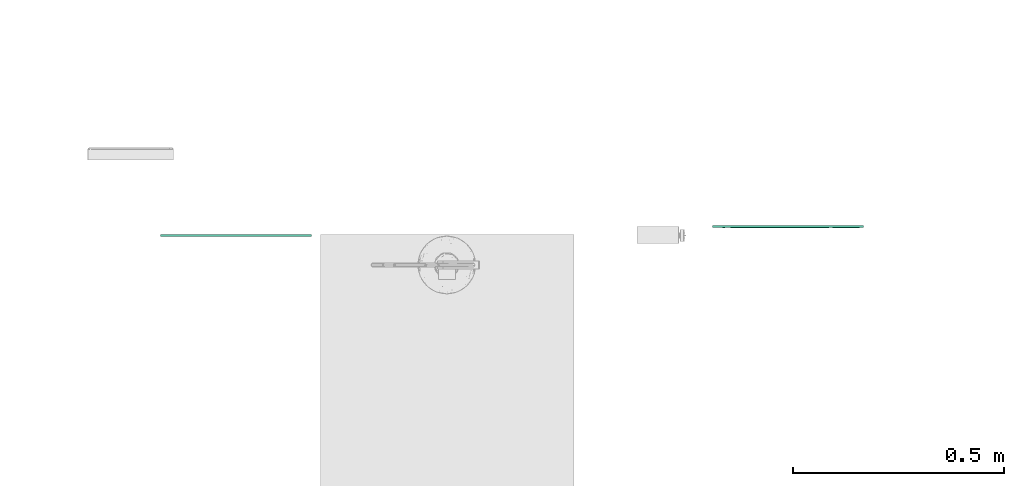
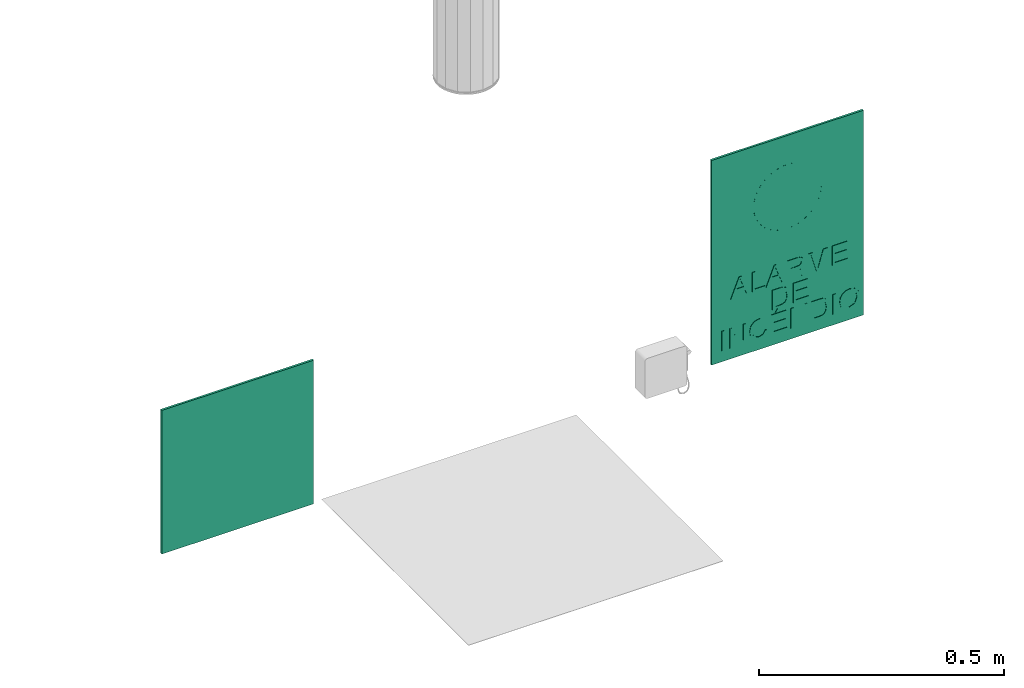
# One storey, part 8 of 9: 2 flow terminals.
"""IFC2X3 building model written with IfcOpenShell, lengths in metres."""

from ifc_helpers import new_model, entity, si_unit, converted_unit, derived_unit, direction, frame, frame_2d, origin, place, context, subcontext, project, spatial, polyline, circle_curve, parameter, trimmed, segment, composite_curve, rectangle, circle, hollow_circle, outline, extrude, source, transform, mapped, material, material_list, type_object, type_shapes, element, save


model = new_model("IFC2X3")

# Units and contexts
model_context = context("Model", 3, precision=1e-05, world=origin(), true_north=direction((6.12303176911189e-17, 1.0)))
body_context = subcontext(model_context, "Body", "Model", "MODEL_VIEW")
ifc_project = project(units=[si_unit("LENGTHUNIT", "METRE"), si_unit("AREAUNIT", "SQUARE_METRE"), si_unit("VOLUMEUNIT", "CUBIC_METRE"), converted_unit("PLANEANGLEUNIT", "DEGREE", entity("IfcRatioMeasure", 0.0174532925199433), si_unit("PLANEANGLEUNIT", "RADIAN"), dimensions=[0, 0, 0, 0, 0, 0, 0]), si_unit("MASSUNIT", "GRAM", prefix="KILO"), derived_unit("MASSDENSITYUNIT", [(si_unit("MASSUNIT", "GRAM", prefix="KILO"), 1), (si_unit("LENGTHUNIT", "METRE"), -3)]), derived_unit("MOMENTOFINERTIAUNIT", [(si_unit("LENGTHUNIT", "METRE"), 4)]), si_unit("TIMEUNIT", "SECOND"), si_unit("FREQUENCYUNIT", "HERTZ"), si_unit("THERMODYNAMICTEMPERATUREUNIT", "DEGREE_CELSIUS"), derived_unit("THERMALTRANSMITTANCEUNIT", [(si_unit("MASSUNIT", "GRAM", prefix="KILO"), 1), (si_unit("THERMODYNAMICTEMPERATUREUNIT", "KELVIN"), -1), (si_unit("TIMEUNIT", "SECOND"), -3)]), derived_unit("VOLUMETRICFLOWRATEUNIT", [(si_unit("LENGTHUNIT", "METRE"), 3), (si_unit("TIMEUNIT", "SECOND"), -1)]), si_unit("ELECTRICCURRENTUNIT", "AMPERE"), si_unit("ELECTRICVOLTAGEUNIT", "VOLT"), si_unit("POWERUNIT", "WATT"), si_unit("FORCEUNIT", "NEWTON", prefix="KILO"), si_unit("ILLUMINANCEUNIT", "LUX"), si_unit("LUMINOUSFLUXUNIT", "LUMEN"), si_unit("LUMINOUSINTENSITYUNIT", "CANDELA"), derived_unit("USERDEFINED", [(si_unit("MASSUNIT", "GRAM", prefix="KILO"), -1), (si_unit("LENGTHUNIT", "METRE"), -2), (si_unit("TIMEUNIT", "SECOND"), 3), (si_unit("LUMINOUSFLUXUNIT", "LUMEN"), 1)]), derived_unit("LINEARVELOCITYUNIT", [(si_unit("LENGTHUNIT", "METRE"), 1), (si_unit("TIMEUNIT", "SECOND"), -1)]), si_unit("PRESSUREUNIT", "PASCAL"), derived_unit("USERDEFINED", [(si_unit("LENGTHUNIT", "METRE"), -2), (si_unit("MASSUNIT", "GRAM", prefix="KILO"), 1), (si_unit("TIMEUNIT", "SECOND"), -2)]), derived_unit("LINEARFORCEUNIT", [(si_unit("MASSUNIT", "GRAM", prefix="KILO"), 1), (si_unit("LENGTHUNIT", "METRE"), 1), (si_unit("TIMEUNIT", "SECOND"), -2), (si_unit("LENGTHUNIT", "METRE"), -1)]), derived_unit("PLANARFORCEUNIT", [(si_unit("MASSUNIT", "GRAM", prefix="KILO"), 1), (si_unit("LENGTHUNIT", "METRE"), 1), (si_unit("TIMEUNIT", "SECOND"), -2), (si_unit("LENGTHUNIT", "METRE"), -2)])], contexts=[model_context])

# Site, building, storey
site_placement = place(None, origin())
site = spatial("IfcSite", under=ifc_project, at=site_placement, Name="Default", CompositionType="ELEMENT")
building_placement = place(site_placement, origin())
building = spatial("IfcBuilding", under=site, at=building_placement, Name="C.L. MONSENHOR ANTÔNIO SAMPAIO", CompositionType="ELEMENT")
storey_placement = place(building_placement, origin())
storey = spatial("IfcBuildingStorey", under=building, at=storey_placement, Name="TÉRREO", CompositionType="ELEMENT", Elevation=0.0)

# Flow terminals
ifc_material_1 = material(Name="VERMELHO")
ifc_material_2 = material(Name="Branco")
ifc_material_list_1 = material_list([ifc_material_1, ifc_material_2])
distribution_element_type_1 = type_object("IfcDistributionElementType", Name="E2:10 metros", material=ifc_material_1)
shared_shape_1 = source(origin(), body_context, "Body", "SweptSolid", [
    extrude(outline(polyline([(-0.115, -0.115), (0.115, -0.115), (0.115, 0.115), (-0.115, 0.115), (-0.115, -0.115)]), holes=[polyline([(-0.0969999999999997, 0.097), (0.0969999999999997, 0.097), (0.0969999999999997, -0.097), (-0.0969999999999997, -0.097), (-0.0969999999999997, 0.097)])]), frame((0.0, -0.005, 0.353240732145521), z_axis=(0.0, 1.0, 0.0), x_axis=(0.0, 0.0, -1.0)), (0.0, 0.0, 1.0), 0.005),
    extrude(hollow_circle(Radius=0.08, WallThickness=0.05, at=frame_2d((3.96523122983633e-19, -4.06075173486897e-16), x_axis=(1.0, 0.0))), frame((0.0, -0.005, 0.357999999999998), z_axis=(0.0, 1.0, 0.0), x_axis=(1.0, 0.0, 0.0)), (0.0, 0.0, 1.0), 0.005),
    extrude(outline(polyline([(-0.0232588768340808, -0.0146945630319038), (0.0297491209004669, -0.0146945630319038), (0.0316918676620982, -0.00982759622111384), (-0.00674552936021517, 0.0266746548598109), (-0.00915613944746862, 0.0206355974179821), (0.0030424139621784, 0.00969678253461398), (-0.00447459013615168, -0.00913480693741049), (-0.0208482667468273, -0.00865550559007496), (-0.0232588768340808, -0.0146945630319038)]), holes=[polyline([(0.00207844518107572, -0.009317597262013), (0.00792450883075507, 0.00532795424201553), (0.0175212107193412, -0.00327813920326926), (0.0250051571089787, -0.00997968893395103), (0.0160884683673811, -0.00972047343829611), (0.00207844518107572, -0.009317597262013)])]), frame((-0.111952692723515, -0.006, 0.16473474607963), z_axis=(0.0, 1.0, 0.0), x_axis=(0.370725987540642, 0.0, 0.92874229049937)), (0.0, 0.0, 1.0), 0.006),
    extrude(outline(polyline([(-0.0184615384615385, -0.0123076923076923), (0.0307692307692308, -0.0123076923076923), (0.0307692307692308, -0.00615384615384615), (-0.0123076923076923, -0.00615384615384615), (-0.0123076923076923, 0.0184615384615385), (-0.0184615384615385, 0.0184615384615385), (-0.0184615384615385, -0.0123076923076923)])), frame((-0.0707973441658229, -0.006, 0.167042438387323), z_axis=(0.0, 1.0, 0.0), x_axis=(0.0, 0.0, 1.0)), (0.0, 0.0, 1.0), 0.006),
    extrude(outline(polyline([(-0.0232588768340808, -0.0146945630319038), (0.0297491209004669, -0.0146945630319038), (0.0316918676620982, -0.00982759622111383), (-0.00674552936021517, 0.0266746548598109), (-0.00915613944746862, 0.0206355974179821), (0.0030424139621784, 0.00969678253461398), (-0.00447459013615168, -0.00913480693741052), (-0.0208482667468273, -0.00865550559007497), (-0.0232588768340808, -0.0146945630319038)]), holes=[polyline([(0.00207844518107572, -0.00931759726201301), (0.00792450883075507, 0.00532795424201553), (0.0175212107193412, -0.00327813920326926), (0.0250051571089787, -0.00997968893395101), (0.0160884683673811, -0.00972047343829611), (0.00207844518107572, -0.00931759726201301)])]), frame((-0.0288757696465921, -0.006, 0.16473474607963), z_axis=(0.0, 1.0, 0.0), x_axis=(0.370725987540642, 0.0, 0.92874229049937)), (0.0, 0.0, 1.0), 0.006),
    extrude(outline(polyline([(-0.0220657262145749, -0.0231072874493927), (0.0271650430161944, -0.0231072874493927), (0.0271650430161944, -0.0018933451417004), (0.0258369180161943, 0.0079564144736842), (0.0211373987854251, 0.0133410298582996), (0.0136914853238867, 0.0153542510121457), (0.00482129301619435, 0.0120189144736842), (0.000241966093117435, 0.0017124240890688), (-0.00239024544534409, 0.005210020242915), (-0.00872438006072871, 0.0101980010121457), (-0.0220657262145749, 0.0184071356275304), (-0.0220657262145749, 0.0112556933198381), (-0.0118613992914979, 0.00484944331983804), (-0.00510659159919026, 0.000222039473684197), (-0.00191548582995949, -0.00302916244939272), (-0.000743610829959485, -0.00595584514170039), (-0.000527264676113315, -0.00952555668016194), (-0.000527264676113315, -0.0169534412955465), (-0.0220657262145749, -0.0169534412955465), (-0.0220657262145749, -0.0231072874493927)]), holes=[polyline([(0.00562658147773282, -0.0169534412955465), (0.00562658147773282, -0.00317940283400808), (0.00649797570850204, 0.00384583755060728), (0.0092864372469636, 0.00783622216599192), (0.0134631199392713, 0.00920040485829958), (0.0188837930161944, 0.00659824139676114), (0.0210111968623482, -0.0016289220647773), (0.0210111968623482, -0.0169534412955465), (0.00562658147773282, -0.0169534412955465)])]), frame((0.0230791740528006, -0.006, 0.170646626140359), z_axis=(0.0, 1.0, 0.0), x_axis=(0.0, 0.0, 1.0)), (0.0, 0.0, 1.0), 0.006),
    extrude(outline(polyline([(-0.0213349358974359, -0.0227035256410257), (0.0278958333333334, -0.0227035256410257), (0.0278958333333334, -0.0121145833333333), (-0.00680368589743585, -0.00204246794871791), (-0.014051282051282, -1.12179487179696e-05), (-0.00620272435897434, 0.00218830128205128), (0.0278958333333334, 0.0120921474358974), (0.0278958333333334, 0.0226810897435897), (-0.0213349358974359, 0.0226810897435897), (-0.0213349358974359, 0.0165272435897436), (0.0217419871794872, 0.0165272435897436), (-0.0213349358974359, 0.00415945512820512), (-0.0213349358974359, -0.00418189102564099), (0.0217419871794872, -0.0165496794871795), (-0.0213349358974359, -0.0165496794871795), (-0.0213349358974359, -0.0227035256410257)])), frame((0.0719061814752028, -0.006, 0.16991583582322), z_axis=(0.0, 1.0, 0.0), x_axis=(0.0, 0.0, 1.0)), (0.0, 0.0, 1.0), 0.006),
    extrude(outline(polyline([(-0.0248717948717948, -0.0196153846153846), (0.0243589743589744, -0.0196153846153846), (0.0243589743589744, 0.0157692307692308), (0.0182051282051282, 0.0157692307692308), (0.0182051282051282, -0.0134615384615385), (0.0035897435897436, -0.0134615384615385), (0.0035897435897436, 0.0142307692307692), (-0.00256410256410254, 0.0142307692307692), (-0.00256410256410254, -0.0134615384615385), (-0.0187179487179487, -0.0134615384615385), (-0.0187179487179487, 0.0165384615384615), (-0.0248717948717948, 0.0165384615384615), (-0.0248717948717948, -0.0196153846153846)])), frame((0.124971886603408, -0.006, 0.173452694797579), z_axis=(0.0, 1.0, 0.0), x_axis=(0.0, 0.0, 1.0)), (0.0, 0.0, 1.0), 0.006),
    extrude(outline(polyline([(-0.0233603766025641, -0.0255023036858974), (0.0258703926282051, -0.0255023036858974), (0.0258703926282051, -0.00851913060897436), (0.0251612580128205, 0.000266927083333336), (0.0216396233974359, 0.00750250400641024), (0.0132261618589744, 0.0133318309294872), (0.00151943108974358, 0.0152669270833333), (-0.00841446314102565, 0.0139568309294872), (-0.0155839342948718, 0.0105914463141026), (-0.020049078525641, 0.00609625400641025), (-0.022519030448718, 0.000212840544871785), (-0.0233603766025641, -0.00770182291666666), (-0.0233603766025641, -0.0255023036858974)]), holes=[polyline([(-0.017206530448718, -0.0193484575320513), (-0.017206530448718, -0.00845903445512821), (-0.0163171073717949, -0.000538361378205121), (-0.0138050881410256, 0.00402894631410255), (-0.00769330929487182, 0.00777293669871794), (0.00161558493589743, 0.00911308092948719), (0.0132742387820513, 0.00648687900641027), (0.018730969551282, 9.86578525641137e-05), (0.019716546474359, -0.00862730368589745), (0.019716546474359, -0.0193484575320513), (-0.017206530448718, -0.0193484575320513)])]), frame((-0.0106796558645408, -0.006, 0.111172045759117), z_axis=(0.0, 1.0, 0.0), x_axis=(0.0, 0.0, 1.0)), (0.0, 0.0, 1.0), 0.006),
    extrude(outline(polyline([(-0.0248717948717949, -0.0196153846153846), (0.0243589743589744, -0.0196153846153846), (0.0243589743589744, 0.0157692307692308), (0.0182051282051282, 0.0157692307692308), (0.0182051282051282, -0.0134615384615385), (0.00358974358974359, -0.0134615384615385), (0.00358974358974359, 0.0142307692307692), (-0.00256410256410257, 0.0142307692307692), (-0.00256410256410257, -0.0134615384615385), (-0.0187179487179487, -0.0134615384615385), (-0.0187179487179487, 0.0165384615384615), (-0.0248717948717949, 0.0165384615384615), (-0.0248717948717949, -0.0196153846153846)])), frame((0.0326641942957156, -0.006, 0.112683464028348), z_axis=(0.0, 1.0, 0.0), x_axis=(0.0, 0.0, 1.0)), (0.0, 0.0, 1.0), 0.006),
    extrude(rectangle(XDim=0.006, YDim=0.00615384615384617, at=frame_2d((0.0, -1.69135538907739e-17), x_axis=(1.0, 0.0))), frame((-0.151951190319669, -0.003, 0.0270424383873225), z_axis=(0.0, 0.0, 1.0), x_axis=(0.0, 1.0, 0.0)), (0.0, 0.0, 1.0), 0.0492307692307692),
    extrude(outline(polyline([(-0.0246165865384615, -0.0192307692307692), (0.0246141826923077, -0.0192307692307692), (0.0246141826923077, -0.0126442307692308), (-0.0143882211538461, 0.0130769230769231), (0.0246141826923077, 0.0130769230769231), (0.0246141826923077, 0.0192307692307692), (-0.0246165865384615, 0.0192307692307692), (-0.0246165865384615, 0.0126442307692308), (0.0143978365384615, -0.0130769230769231), (-0.0246165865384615, -0.0130769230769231), (-0.0246165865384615, -0.0192307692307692)])), frame((-0.117335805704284, -0.006, 0.0516590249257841), z_axis=(0.0, 1.0, 0.0), x_axis=(0.0, 0.0, 1.0)), (0.0, 0.0, 1.0), 0.006),
    extrude(outline(polyline([(0.0173971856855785, 0.00315678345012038), (0.0237522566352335, 0.00315678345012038), (0.0197857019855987, 0.0169950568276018), (0.00837577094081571, 0.0243492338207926), (-0.00483237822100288, 0.0244155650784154), (-0.014444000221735, 0.0172244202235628), (-0.0202261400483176, 0.00512371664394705), (-0.0207434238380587, -0.00855775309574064), (-0.0148834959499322, -0.0190239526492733), (-0.00417070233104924, -0.0248454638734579), (0.00872193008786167, -0.0242098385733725), (0.0181494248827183, -0.0154941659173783), (0.0125565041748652, -0.0125379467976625), (0.00577939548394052, -0.0186042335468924), (-0.00286717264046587, -0.0188264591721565), (-0.011532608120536, -0.0138741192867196), (-0.0150347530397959, -0.00567282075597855), (-0.0142701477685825, 0.00357577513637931), (-0.0098254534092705, 0.0133774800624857), (-0.00253642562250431, 0.018492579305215), (0.00624589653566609, 0.0185432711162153), (0.0146026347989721, 0.0132360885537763), (0.0173971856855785, 0.00315678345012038)])), frame((-0.0687786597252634, -0.006, 0.0519424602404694), z_axis=(0.0, 1.0, 0.0), x_axis=(0.968336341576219, 0.0, -0.249649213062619)), (0.0, 0.0, 1.0), 0.006),
    extrude(outline(polyline([(-0.0248717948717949, -0.0196153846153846), (0.0243589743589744, -0.0196153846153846), (0.0243589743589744, 0.0157692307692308), (0.0182051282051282, 0.0157692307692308), (0.0182051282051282, -0.0134615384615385), (0.0035897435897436, -0.0134615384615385), (0.0035897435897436, 0.0142307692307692), (-0.00256410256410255, 0.0142307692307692), (-0.00256410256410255, -0.0134615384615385), (-0.0187179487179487, -0.0134615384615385), (-0.0187179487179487, 0.0165384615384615), (-0.0248717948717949, 0.0165384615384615), (-0.0248717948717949, -0.0196153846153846)])), frame((-0.0184896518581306, -0.006, 0.0519142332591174), z_axis=(0.0, 1.0, 0.0), x_axis=(0.0, 0.0, 1.0)), (0.0, 0.0, 1.0), 0.006),
    extrude(outline(polyline([(-0.0246165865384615, -0.0192307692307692), (0.0246141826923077, -0.0192307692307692), (0.0246141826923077, -0.0126442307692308), (-0.0143882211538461, 0.0130769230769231), (0.0246141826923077, 0.0130769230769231), (0.0246141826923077, 0.0192307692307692), (-0.0246165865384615, 0.0192307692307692), (-0.0246165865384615, 0.0126442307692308), (0.0143978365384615, -0.0130769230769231), (-0.0246165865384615, -0.0130769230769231), (-0.0246165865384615, -0.0192307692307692)])), frame((0.0265103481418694, -0.006, 0.0516590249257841), z_axis=(0.0, 1.0, 0.0), x_axis=(0.0, 0.0, 1.0)), (0.0, 0.0, 1.0), 0.006),
    extrude(outline(polyline([(-0.0233603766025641, -0.0255023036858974), (0.0258703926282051, -0.0255023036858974), (0.0258703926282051, -0.00851913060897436), (0.0251612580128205, 0.000266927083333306), (0.0216396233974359, 0.00750250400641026), (0.0132261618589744, 0.0133318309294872), (0.0015194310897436, 0.0152669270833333), (-0.00841446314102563, 0.0139568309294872), (-0.0155839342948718, 0.0105914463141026), (-0.020049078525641, 0.00609625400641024), (-0.0225190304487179, 0.000212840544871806), (-0.0233603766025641, -0.00770182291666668), (-0.0233603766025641, -0.0255023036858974)]), holes=[polyline([(-0.0172065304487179, -0.0193484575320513), (-0.0172065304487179, -0.00845903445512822), (-0.0163171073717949, -0.000538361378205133), (-0.0138050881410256, 0.00402894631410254), (-0.00769330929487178, 0.00777293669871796), (0.00161558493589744, 0.00911308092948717), (0.0132742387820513, 0.00648687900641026), (0.0187309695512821, 9.8657852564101e-05), (0.019716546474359, -0.00862730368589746), (0.019716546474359, -0.0193484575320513), (-0.0172065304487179, -0.0193484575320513)])]), frame((0.0820126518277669, -0.006, 0.0504028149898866), z_axis=(0.0, 1.0, 0.0), x_axis=(0.0, 0.0, 1.0)), (0.0, 0.0, 1.0), 0.006),
    extrude(rectangle(XDim=0.006, YDim=0.00615384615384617, at=frame_2d((0.0, 1.69135538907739e-17), x_axis=(1.0, 0.0))), frame((0.109587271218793, -0.003, 0.0270424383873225), z_axis=(0.0, 0.0, 1.0), x_axis=(0.0, 1.0, 0.0)), (0.0, 0.0, 1.0), 0.0492307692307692),
    extrude(outline(polyline([(-0.00518332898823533, -0.0217127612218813), (0.00582601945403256, -0.0217127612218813), (0.0147036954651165, -0.0180732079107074), (0.0209490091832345, -0.011414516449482), (0.0240612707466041, -0.00235710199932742), (0.0226774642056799, 0.0102373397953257), (0.0149674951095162, 0.0198104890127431), (0.00236779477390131, 0.0246021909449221), (-0.011285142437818, 0.0236149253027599), (-0.0213755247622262, 0.0165055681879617), (-0.0261464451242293, 0.00517292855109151), (-0.0246813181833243, -0.0075674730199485), (-0.0168809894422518, -0.0171056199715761), (-0.00518332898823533, -0.0217127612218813)]), holes=[polyline([(-0.0043257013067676, -0.0156186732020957), (-0.0170104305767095, -0.00872958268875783), (-0.0200666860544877, 0.00422022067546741), (-0.0132660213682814, 0.0157939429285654), (0.00149828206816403, 0.018509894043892), (0.0112294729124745, 0.0149284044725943), (0.0169683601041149, 0.00788273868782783), (0.0179815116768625, -0.00140439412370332), (0.0116103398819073, -0.0128301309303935), (0.00497091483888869, -0.0157221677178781), (-0.0043257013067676, -0.0156186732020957)])]), frame((0.144906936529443, -0.006, 0.052898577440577), z_axis=(0.0, 1.0, 0.0), x_axis=(0.149021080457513, 0.0, 0.988834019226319)), (0.0, 0.0, 1.0), 0.006),
    extrude(outline(polyline([(-0.00219091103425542, 0.00148455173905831), (0.00486968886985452, 0.00148455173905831), (0.00788668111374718, 0.00684809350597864), (-0.00336418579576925, 0.00567481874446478), (-0.0063811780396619, 0.000311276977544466), (-0.00191854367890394, -0.0105834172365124), (0.00109844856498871, -0.00521987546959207), (-0.00219091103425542, 0.00148455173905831)])), frame((-0.0194237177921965, -0.006, 0.0828666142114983), z_axis=(0.0, 1.0, 0.0), x_axis=(-0.490261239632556, 0.0, -0.871575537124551)), (0.0, 0.0, 1.0), 0.006),
    extrude(outline(polyline([(-0.179, -0.255), (0.179000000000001, -0.255), (0.179000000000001, 0.255), (-0.179000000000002, 0.255), (-0.179, -0.255)]), holes=[polyline([(-0.115, 0.213240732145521), (0.115, 0.213240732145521), (0.115, -0.0167592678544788), (-0.115, -0.0167592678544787), (-0.115, 0.213240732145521)])]), frame((0.0, -0.005, 0.255), z_axis=(0.0, 1.0, 0.0), x_axis=(-1.0, 0.0, 0.0)), (0.0, 0.0, 1.0), 0.005),
    extrude(outline(polyline([(-0.097, -0.0969999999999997), (0.097, -0.0969999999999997), (0.097, 0.0969999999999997), (-0.097, 0.0969999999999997), (-0.097, -0.0969999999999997)]), holes=[composite_curve([segment(trimmed(circle_curve(frame_2d((0.0, -0.00475926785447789), x_axis=(1.0, 0.0)), 0.08), [parameter(180.0)], [parameter(360.0)], True, "PARAMETER"), False, "CONTINUOUS"), segment(trimmed(circle_curve(frame_2d((0.0, -0.00475926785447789), x_axis=(1.0, 0.0)), 0.08), [parameter(0.0)], [parameter(180.0)], True, "PARAMETER"), False, "CONTINUOUS")], self_intersect=False)]), frame((0.0, -0.005, 0.353240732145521), z_axis=(0.0, 1.0, 0.0), x_axis=(1.0, 0.0, 0.0)), (0.0, 0.0, 1.0), 0.005),
    extrude(circle(Radius=0.03, at=frame_2d((0.0, -1.35358391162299e-16), x_axis=(1.0, 0.0))), frame((0.0, -0.005, 0.357999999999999), z_axis=(0.0, 1.0, 0.0), x_axis=(1.0, 0.0, 0.0)), (0.0, 0.0, 1.0), 0.005),
])
type_shapes(distribution_element_type_1, [shared_shape_1])
flow_terminal_1_placement = place(building_placement, frame((6.57697552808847, -16.9030663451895, 0.0)))
element("IfcFlowTerminal", 1, at=flow_terminal_1_placement, inside=storey, type_object=distribution_element_type_1, material=ifc_material_list_1, Name="E2:10 metros", ObjectType="E2:10 metros", context=body_context, shape_type="MappedRepresentation", body=[
    mapped(shared_shape_1, transform((0.0, 0.0, 0.0), scale=1.0)),
])
ifc_material_list_2 = material_list([ifc_material_2, ifc_material_1])
distribution_element_type_2 = type_object("IfcDistributionElementType", Name="E5:10 metros", material=ifc_material_2)
shared_shape_2 = source(origin(), body_context, "Body", "SweptSolid", [
    extrude(outline(composite_curve([segment(polyline([(-0.254128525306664, -0.0465583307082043), (-0.0191285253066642, -0.0465583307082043)]), True, "CONTINUOUS"), segment(trimmed(circle_curve(frame_2d((-0.0664803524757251, 0.00975665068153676), x_axis=(0.0, 1.0)), 0.0735769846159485), [parameter(220.058428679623)], [parameter(257.560611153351)], True, "PARAMETER"), True, "CONTINUOUS"), segment(polyline([(0.00536937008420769, -0.00609232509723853), (0.0303693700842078, -0.006092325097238)]), True, "CONTINUOUS"), segment(polyline([(0.0303693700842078, -0.006092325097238), (0.0303693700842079, -0.0230808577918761)]), True, "CONTINUOUS"), segment(polyline([(0.0303693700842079, -0.0230808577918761), (0.0043083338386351, -0.0617179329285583)]), True, "CONTINUOUS"), segment(polyline([(0.0043083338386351, -0.0617179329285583), (-0.0104637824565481, -0.0643226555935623)]), True, "CONTINUOUS"), segment(polyline([(-0.0104637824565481, -0.0643226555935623), (-0.010463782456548, -0.0743226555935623)]), True, "CONTINUOUS"), segment(polyline([(-0.010463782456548, -0.0743226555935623), (0.0120002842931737, -0.0743226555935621)]), True, "CONTINUOUS"), segment(polyline([(0.0120002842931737, -0.0743226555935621), (0.0533610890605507, -0.0267424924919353)]), True, "CONTINUOUS"), segment(polyline([(0.0533610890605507, -0.0267424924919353), (0.0533610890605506, -0.00174249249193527)]), True, "CONTINUOUS"), segment(polyline([(0.0533610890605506, -0.00174249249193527), (0.0602467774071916, -0.00174249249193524)]), True, "CONTINUOUS"), segment(polyline([(0.0602467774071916, -0.00174249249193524), (0.0602467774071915, 0.0232575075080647)]), True, "CONTINUOUS"), segment(polyline([(0.0602467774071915, 0.0232575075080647), (0.0533610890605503, 0.0232575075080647)]), True, "CONTINUOUS"), segment(polyline([(0.0533610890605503, 0.0232575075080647), (0.0533610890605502, 0.0463624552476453)]), True, "CONTINUOUS"), segment(polyline([(0.0533610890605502, 0.0463624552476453), (0.0451773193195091, 0.0545462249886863)]), True, "CONTINUOUS"), segment(polyline([(0.0451773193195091, 0.0545462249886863), (0.0401773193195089, 0.0545462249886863)]), True, "CONTINUOUS"), segment(polyline([(0.0401773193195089, 0.0545462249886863), (0.0303693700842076, 0.0447382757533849)]), True, "CONTINUOUS"), segment(polyline([(0.0303693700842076, 0.0447382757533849), (0.0303693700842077, 0.0272220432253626)]), True, "CONTINUOUS"), segment(polyline([(0.0303693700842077, 0.0272220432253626), (0.00499364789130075, 0.0272220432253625)]), True, "CONTINUOUS"), segment(trimmed(circle_curve(frame_2d((-0.0664803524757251, 0.00975665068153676), x_axis=(0.0, 1.0)), 0.0735769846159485), [parameter(283.731707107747)], [parameter(319.941571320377)], True, "PARAMETER"), True, "CONTINUOUS"), segment(polyline([(-0.019128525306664, 0.0660716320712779), (-0.254128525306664, 0.0660716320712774)]), True, "CONTINUOUS"), segment(polyline([(-0.254128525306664, 0.0660716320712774), (-0.254128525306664, -0.0465583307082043)]), True, "CONTINUOUS")], self_intersect=False)), frame((-0.00975665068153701, -0.005, 0.271403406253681), z_axis=(0.0, 1.0, 0.0), x_axis=(0.0, 0.0, 1.0)), (0.0, 0.0, 1.0), 0.005),
    extrude(outline(polyline([(-0.179, -0.178999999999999), (0.179000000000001, -0.178999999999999), (0.179000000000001, 0.178999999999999), (-0.179000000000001, 0.178999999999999), (-0.179, -0.178999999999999)]), holes=[composite_curve([segment(polyline([(-0.0563149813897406, -0.161725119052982), (-0.056314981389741, 0.0732748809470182)]), True, "CONTINUOUS"), segment(trimmed(circle_curve(frame_2d((0.0, 0.025923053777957), x_axis=(-1.0, 0.0)), 0.0735769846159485), [parameter(283.731707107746)], [parameter(319.941571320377)], True, "PARAMETER"), False, "CONTINUOUS"), segment(polyline([(-0.0174653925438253, 0.0973970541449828), (-0.0174653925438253, 0.12277277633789)]), True, "CONTINUOUS"), segment(polyline([(-0.0174653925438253, 0.12277277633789), (-0.0349816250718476, 0.12277277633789)]), True, "CONTINUOUS"), segment(polyline([(-0.0349816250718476, 0.12277277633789), (-0.044789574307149, 0.132580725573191)]), True, "CONTINUOUS"), segment(polyline([(-0.044789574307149, 0.132580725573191), (-0.044789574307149, 0.137580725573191)]), True, "CONTINUOUS"), segment(polyline([(-0.044789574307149, 0.137580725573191), (-0.0366058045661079, 0.145764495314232)]), True, "CONTINUOUS"), segment(polyline([(-0.0366058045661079, 0.145764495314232), (-0.0135008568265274, 0.145764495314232)]), True, "CONTINUOUS"), segment(polyline([(-0.0135008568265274, 0.145764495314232), (-0.0135008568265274, 0.152650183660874)]), True, "CONTINUOUS"), segment(polyline([(-0.0135008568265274, 0.152650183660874), (0.0114991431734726, 0.152650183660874)]), True, "CONTINUOUS"), segment(polyline([(0.0114991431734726, 0.152650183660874), (0.0114991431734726, 0.145764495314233)]), True, "CONTINUOUS"), segment(polyline([(0.0114991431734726, 0.145764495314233), (0.0364991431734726, 0.145764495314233)]), True, "CONTINUOUS"), segment(polyline([(0.0364991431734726, 0.145764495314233), (0.0840793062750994, 0.104403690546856)]), True, "CONTINUOUS"), segment(polyline([(0.0840793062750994, 0.104403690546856), (0.0840793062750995, 0.081939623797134)]), True, "CONTINUOUS"), segment(polyline([(0.0840793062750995, 0.081939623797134), (0.0740793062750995, 0.0819396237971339)]), True, "CONTINUOUS"), segment(polyline([(0.0740793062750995, 0.0819396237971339), (0.0714745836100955, 0.0967117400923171)]), True, "CONTINUOUS"), segment(polyline([(0.0714745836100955, 0.0967117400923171), (0.0328375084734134, 0.12277277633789)]), True, "CONTINUOUS"), segment(polyline([(0.0328375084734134, 0.12277277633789), (0.0158489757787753, 0.12277277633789)]), True, "CONTINUOUS"), segment(polyline([(0.0158489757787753, 0.12277277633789), (0.0158489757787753, 0.0977727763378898)]), True, "CONTINUOUS"), segment(trimmed(circle_curve(frame_2d((0.0, 0.025923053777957), x_axis=(-1.0, 0.0)), 0.0735769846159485), [parameter(220.058428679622)], [parameter(257.560611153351)], True, "PARAMETER"), False, "CONTINUOUS"), segment(polyline([(0.0563149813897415, 0.0732748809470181), (0.0563149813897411, -0.161725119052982)]), True, "CONTINUOUS"), segment(polyline([(0.0563149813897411, -0.161725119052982), (-0.0563149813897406, -0.161725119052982)]), True, "CONTINUOUS")], self_intersect=False)]), frame((0.0, -0.005, 0.178999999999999), z_axis=(0.0, 1.0, 0.0), x_axis=(-1.0, 0.0, 0.0)), (0.0, 0.0, 1.0), 0.005),
])
type_shapes(distribution_element_type_2, [shared_shape_2])
flow_terminal_2_placement = place(building_placement, frame((5.26914948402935, -16.9242870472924, 0.0)))
element("IfcFlowTerminal", 2, at=flow_terminal_2_placement, inside=storey, type_object=distribution_element_type_2, material=ifc_material_list_2, Name="E5:10 metros", ObjectType="E5:10 metros", context=body_context, shape_type="MappedRepresentation", body=[
    mapped(shared_shape_2, transform((0.0, 0.0, 0.0), scale=1.0)),
])

save(model, "model.ifc")
